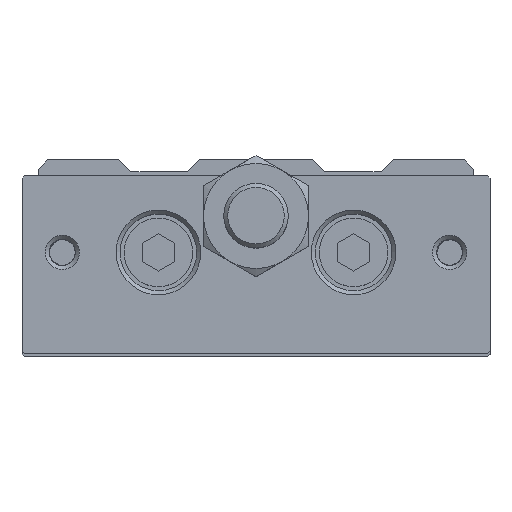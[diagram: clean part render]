
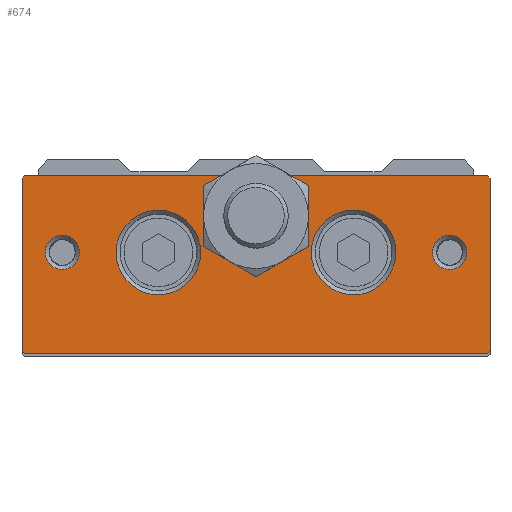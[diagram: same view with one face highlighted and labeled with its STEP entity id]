
A CAD part, top view. The second image highlights one B-rep face of the part: STEP entity #674.
In plain terms, the highlighted planar face has unit normal (0, 0, 1).
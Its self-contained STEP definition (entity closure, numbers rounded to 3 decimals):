
#455=CARTESIAN_POINT('',(-28.7,-13.,143.5));
#456=VERTEX_POINT('',#455);
#463=CARTESIAN_POINT('',(-29.,-12.7,143.5));
#464=VERTEX_POINT('',#463);
#465=CARTESIAN_POINT('',(-28.7,-13.,143.5));
#466=DIRECTION('',(-0.707,0.707,0.0));
#467=VECTOR('',#466,0.424);
#468=LINE('',#465,#467);
#469=EDGE_CURVE('',#456,#464,#468,.T.);
#486=CARTESIAN_POINT('',(-29.,8.7,143.5));
#487=VERTEX_POINT('',#486);
#488=CARTESIAN_POINT('',(-29.,8.7,143.5));
#489=DIRECTION('',(0.0,-1.0,0.0));
#490=VECTOR('',#489,21.4);
#491=LINE('',#488,#490);
#492=EDGE_CURVE('',#487,#464,#491,.T.);
#522=CARTESIAN_POINT('',(0.0,-13.,143.5));
#523=DIRECTION('',(0.0,0.0,1.0));
#524=DIRECTION('',(1.0,0.0,0.0));
#525=AXIS2_PLACEMENT_3D('',#522,#523,#524);
#526=PLANE('',#525);
#527=ORIENTED_EDGE('',*,*,#469,.F.);
#528=CARTESIAN_POINT('',(28.7,-13.,143.5));
#529=VERTEX_POINT('',#528);
#530=CARTESIAN_POINT('',(-28.7,-13.,143.5));
#531=DIRECTION('',(1.0,0.0,0.0));
#532=VECTOR('',#531,57.4);
#533=LINE('',#530,#532);
#534=EDGE_CURVE('',#456,#529,#533,.T.);
#535=ORIENTED_EDGE('',*,*,#534,.T.);
#536=CARTESIAN_POINT('',(29.,-12.7,143.5));
#537=VERTEX_POINT('',#536);
#538=CARTESIAN_POINT('',(29.,-12.7,143.5));
#539=DIRECTION('',(-0.707,-0.707,0.0));
#540=VECTOR('',#539,0.424);
#541=LINE('',#538,#540);
#542=EDGE_CURVE('',#537,#529,#541,.T.);
#543=ORIENTED_EDGE('',*,*,#542,.F.);
#544=CARTESIAN_POINT('',(29.,8.7,143.5));
#545=VERTEX_POINT('',#544);
#546=CARTESIAN_POINT('',(29.,-12.7,143.5));
#547=DIRECTION('',(0.0,1.0,0.0));
#548=VECTOR('',#547,21.4);
#549=LINE('',#546,#548);
#550=EDGE_CURVE('',#537,#545,#549,.T.);
#551=ORIENTED_EDGE('',*,*,#550,.T.);
#552=CARTESIAN_POINT('',(28.7,9.,143.5));
#553=VERTEX_POINT('',#552);
#554=CARTESIAN_POINT('',(28.7,9.,143.5));
#555=DIRECTION('',(0.707,-0.707,0.0));
#556=VECTOR('',#555,0.424);
#557=LINE('',#554,#556);
#558=EDGE_CURVE('',#553,#545,#557,.T.);
#559=ORIENTED_EDGE('',*,*,#558,.F.);
#560=CARTESIAN_POINT('',(4.153,9.,143.5));
#561=VERTEX_POINT('',#560);
#562=CARTESIAN_POINT('',(28.7,9.,143.5));
#563=DIRECTION('',(-1.0,0.0,0.0));
#564=VECTOR('',#563,24.547);
#565=LINE('',#562,#564);
#566=EDGE_CURVE('',#553,#561,#565,.T.);
#567=ORIENTED_EDGE('',*,*,#566,.T.);
#568=CARTESIAN_POINT('',(6.5,4.,143.5));
#569=VERTEX_POINT('',#568);
#570=CARTESIAN_POINT('',(0.0,4.,143.5));
#571=DIRECTION('',(0.0,0.0,1.0));
#572=DIRECTION('',(0.0,1.0,0.0));
#573=AXIS2_PLACEMENT_3D('',#570,#571,#572);
#574=CIRCLE('',#573,6.5);
#575=EDGE_CURVE('',#569,#561,#574,.T.);
#576=ORIENTED_EDGE('',*,*,#575,.F.);
#577=CARTESIAN_POINT('',(3.25,-1.629,143.5));
#578=VERTEX_POINT('',#577);
#579=CARTESIAN_POINT('',(0.0,4.,143.5));
#580=DIRECTION('',(0.0,0.0,1.0));
#581=DIRECTION('',(0.0,1.0,0.0));
#582=AXIS2_PLACEMENT_3D('',#579,#580,#581);
#583=CIRCLE('',#582,6.5);
#584=EDGE_CURVE('',#578,#569,#583,.T.);
#585=ORIENTED_EDGE('',*,*,#584,.F.);
#586=CARTESIAN_POINT('',(-3.25,-1.629,143.5));
#587=VERTEX_POINT('',#586);
#588=CARTESIAN_POINT('',(0.0,4.,143.5));
#589=DIRECTION('',(0.0,0.0,1.0));
#590=DIRECTION('',(0.0,1.0,0.0));
#591=AXIS2_PLACEMENT_3D('',#588,#589,#590);
#592=CIRCLE('',#591,6.5);
#593=EDGE_CURVE('',#587,#578,#592,.T.);
#594=ORIENTED_EDGE('',*,*,#593,.F.);
#595=CARTESIAN_POINT('',(-6.5,4.,143.5));
#596=VERTEX_POINT('',#595);
#597=CARTESIAN_POINT('',(0.0,4.,143.5));
#598=DIRECTION('',(0.0,0.0,1.0));
#599=DIRECTION('',(0.0,1.0,0.0));
#600=AXIS2_PLACEMENT_3D('',#597,#598,#599);
#601=CIRCLE('',#600,6.5);
#602=EDGE_CURVE('',#596,#587,#601,.T.);
#603=ORIENTED_EDGE('',*,*,#602,.F.);
#604=CARTESIAN_POINT('',(-4.153,9.,143.5));
#605=VERTEX_POINT('',#604);
#606=CARTESIAN_POINT('',(0.0,4.,143.5));
#607=DIRECTION('',(0.0,0.0,1.0));
#608=DIRECTION('',(0.0,1.0,0.0));
#609=AXIS2_PLACEMENT_3D('',#606,#607,#608);
#610=CIRCLE('',#609,6.5);
#611=EDGE_CURVE('',#605,#596,#610,.T.);
#612=ORIENTED_EDGE('',*,*,#611,.F.);
#613=CARTESIAN_POINT('',(-28.7,9.,143.5));
#614=VERTEX_POINT('',#613);
#615=CARTESIAN_POINT('',(-4.153,9.,143.5));
#616=DIRECTION('',(-1.0,0.0,0.0));
#617=VECTOR('',#616,24.547);
#618=LINE('',#615,#617);
#619=EDGE_CURVE('',#605,#614,#618,.T.);
#620=ORIENTED_EDGE('',*,*,#619,.T.);
#621=CARTESIAN_POINT('',(-29.,8.7,143.5));
#622=DIRECTION('',(0.707,0.707,0.0));
#623=VECTOR('',#622,0.424);
#624=LINE('',#621,#623);
#625=EDGE_CURVE('',#487,#614,#624,.T.);
#626=ORIENTED_EDGE('',*,*,#625,.F.);
#627=ORIENTED_EDGE('',*,*,#492,.T.);
#628=EDGE_LOOP('',(#527,#535,#543,#551,#559,#567,#576,#585,#594,#603,#612,#620,#626,#627));
#629=FACE_OUTER_BOUND('',#628,.T.);
#630=CARTESIAN_POINT('',(-21.879,-0.5,143.5));
#631=VERTEX_POINT('',#630);
#632=CARTESIAN_POINT('',(-24.,-0.5,143.5));
#633=DIRECTION('',(0.0,0.0,1.0));
#634=DIRECTION('',(-1.0,0.0,0.0));
#635=AXIS2_PLACEMENT_3D('',#632,#633,#634);
#636=CIRCLE('',#635,2.121);
#637=EDGE_CURVE('',#631,#631,#636,.T.);
#638=ORIENTED_EDGE('',*,*,#637,.F.);
#639=EDGE_LOOP('',(#638));
#640=FACE_BOUND('',#639,.T.);
#641=CARTESIAN_POINT('',(26.121,-0.5,143.5));
#642=VERTEX_POINT('',#641);
#643=CARTESIAN_POINT('',(24.,-0.5,143.5));
#644=DIRECTION('',(0.0,0.0,1.0));
#645=DIRECTION('',(-1.0,0.0,0.0));
#646=AXIS2_PLACEMENT_3D('',#643,#644,#645);
#647=CIRCLE('',#646,2.121);
#648=EDGE_CURVE('',#642,#642,#647,.T.);
#649=ORIENTED_EDGE('',*,*,#648,.F.);
#650=EDGE_LOOP('',(#649));
#651=FACE_BOUND('',#650,.T.);
#652=CARTESIAN_POINT('',(-6.85,-0.5,143.5));
#653=VERTEX_POINT('',#652);
#654=CARTESIAN_POINT('',(-12.1,-0.5,143.5));
#655=DIRECTION('',(0.0,0.0,1.0));
#656=DIRECTION('',(-1.0,0.0,0.0));
#657=AXIS2_PLACEMENT_3D('',#654,#655,#656);
#658=CIRCLE('',#657,5.25);
#659=EDGE_CURVE('',#653,#653,#658,.T.);
#660=ORIENTED_EDGE('',*,*,#659,.F.);
#661=EDGE_LOOP('',(#660));
#662=FACE_BOUND('',#661,.T.);
#663=CARTESIAN_POINT('',(17.35,-0.5,143.5));
#664=VERTEX_POINT('',#663);
#665=CARTESIAN_POINT('',(12.1,-0.5,143.5));
#666=DIRECTION('',(0.0,0.0,1.0));
#667=DIRECTION('',(-1.0,0.0,0.0));
#668=AXIS2_PLACEMENT_3D('',#665,#666,#667);
#669=CIRCLE('',#668,5.25);
#670=EDGE_CURVE('',#664,#664,#669,.T.);
#671=ORIENTED_EDGE('',*,*,#670,.F.);
#672=EDGE_LOOP('',(#671));
#673=FACE_BOUND('',#672,.T.);
#674=ADVANCED_FACE('',(#629,#640,#651,#662,#673),#526,.T.);
